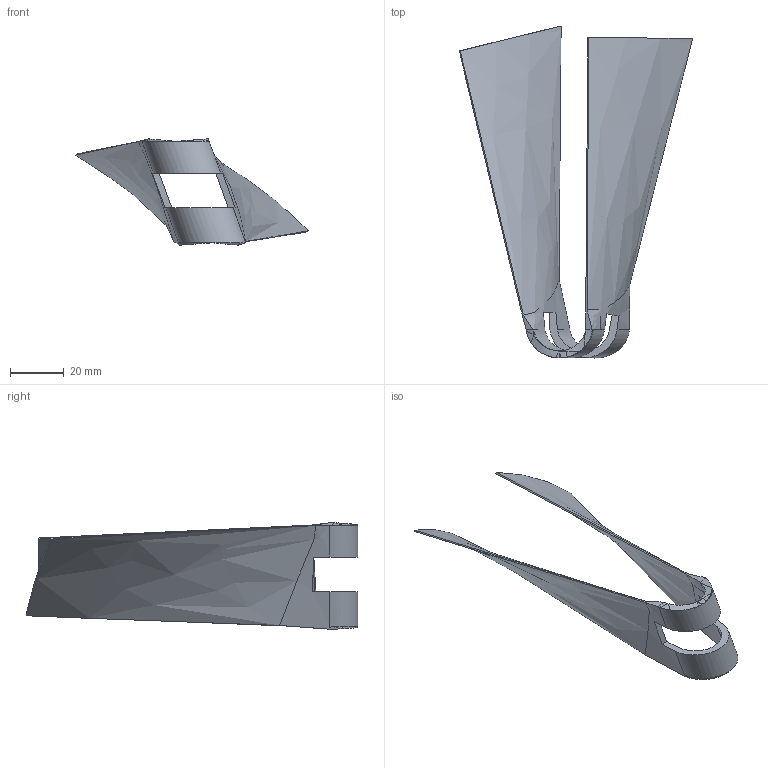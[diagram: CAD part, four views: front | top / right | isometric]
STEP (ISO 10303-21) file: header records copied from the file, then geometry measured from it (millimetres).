
FILE_DESCRIPTION(('CATIA V5 STEP Exchange'),'2;1');
FILE_NAME('E:\WAT\Sprezarka\122_00_00_Tlocznik2\Tlocznik2_stp\Lopatka_gotowa.stp','2022-09-24T10:17:21+00:00',('none'),('none'),'CATIA Version 5 Release 20 SP 4 (IN-10)','CATIA V5 STEP AP214','none');
FILE_SCHEMA(('AUTOMOTIVE_DESIGN { 1 0 10303 214 1 1 1 1 }'));
Length unit declared in the file: millimetre
Products named in the file (1): Lopatka_gotowa
Bounding box: 86.67 x 123.29 x 39.5 mm (x, y, z)
Volume: 14505.9 mm3; surface area: 20838.3 mm2
Topology: 1 solids, 1 shells, 88 faces, 289 edges, 199 vertices
Faces by surface type: bspline 73, plane 9, cylinder 6
Entity records: 5755 total; most frequent: CARTESIAN_POINT 3354, ORIENTED_EDGE 574, EDGE_CURVE 287, B_SPLINE_CURVE_WITH_KNOTS 282, VERTEX_POINT 199, PRESENTATION_STYLE_ASSIGNMENT 89, SURFACE_STYLE_USAGE 89, SURFACE_SIDE_STYLE 89
